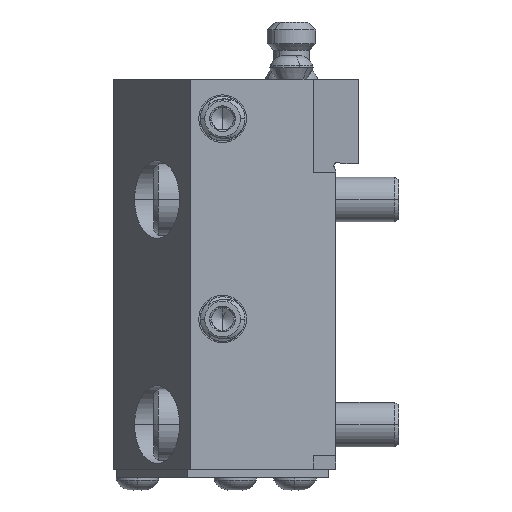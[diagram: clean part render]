
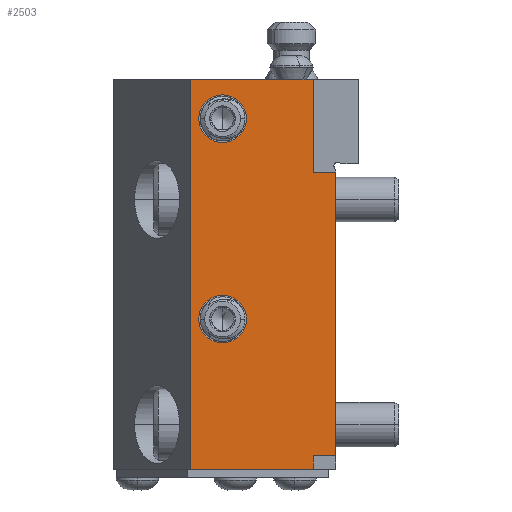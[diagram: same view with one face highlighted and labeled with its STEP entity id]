
A CAD part, left-side view. The second image highlights one B-rep face of the part: STEP entity #2503.
In plain terms, the highlighted planar face has unit normal (-1, 0, 0).
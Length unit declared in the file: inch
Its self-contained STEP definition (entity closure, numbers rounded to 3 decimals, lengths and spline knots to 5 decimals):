
#139 = DIRECTION ( 'NONE',  ( 0., 0., -1. ) ) ;
#149 = VERTEX_POINT ( 'NONE', #5284 ) ;
#290 = VERTEX_POINT ( 'NONE', #16333 ) ;
#643 = EDGE_LOOP ( 'NONE', ( #8943, #15682 ) ) ;
#668 = VERTEX_POINT ( 'NONE', #11712 ) ;
#836 = ORIENTED_EDGE ( 'NONE', *, *, #4191, .T. ) ;
#898 = CIRCLE ( 'NONE', #16187, 0.2105 ) ;
#1089 = AXIS2_PLACEMENT_3D ( 'NONE', #11428, #2860, #11608 ) ;
#1207 = VECTOR ( 'NONE', #10221, 39.37008 ) ;
#1418 = CARTESIAN_POINT ( 'NONE',  ( -1.77165, -0.8, 0.12 ) ) ;
#1550 = EDGE_CURVE ( 'NONE', #16077, #149, #9449, .T. ) ;
#2078 = DIRECTION ( 'NONE',  ( 0., 0., 1. ) ) ;
#2503 = ADVANCED_FACE ( 'NONE', ( #8050, #13849, #8145 ), #18065, .T. ) ;
#2860 = DIRECTION ( 'NONE',  ( 1., 0., 0. ) ) ;
#2947 = CARTESIAN_POINT ( 'NONE',  ( -1.77165, -0.8, 2.625 ) ) ;
#3023 = CARTESIAN_POINT ( 'NONE',  ( -1.77165, -0.8, 0.12 ) ) ;
#3170 = DIRECTION ( 'NONE',  ( 0., 1., 0. ) ) ;
#3234 = DIRECTION ( 'NONE',  ( 0., 0., -1. ) ) ;
#3238 = EDGE_CURVE ( 'NONE', #11465, #4535, #8610, .T. ) ;
#3314 = VECTOR ( 'NONE', #4524, 39.37008 ) ;
#3320 = ORIENTED_EDGE ( 'NONE', *, *, #17217, .T. ) ;
#3878 = VECTOR ( 'NONE', #3972, 39.37008 ) ;
#3896 = CARTESIAN_POINT ( 'NONE',  ( -1.77165, -1.2, 2.625 ) ) ;
#3929 = VERTEX_POINT ( 'NONE', #3023 ) ;
#3972 = DIRECTION ( 'NONE',  ( 0., -1., 0. ) ) ;
#4054 = DIRECTION ( 'NONE',  ( 1., 0., 0. ) ) ;
#4191 = EDGE_CURVE ( 'NONE', #668, #6331, #9240, .T. ) ;
#4502 = LINE ( 'NONE', #7426, #1207 ) ;
#4524 = DIRECTION ( 'NONE',  ( 0., 0., -1. ) ) ;
#4535 = VERTEX_POINT ( 'NONE', #6850 ) ;
#4662 = CARTESIAN_POINT ( 'NONE',  ( -1.77165, 0., 3.1 ) ) ;
#5006 = CIRCLE ( 'NONE', #1089, 0.2105 ) ;
#5184 = EDGE_CURVE ( 'NONE', #290, #10234, #11222, .T. ) ;
#5227 = CARTESIAN_POINT ( 'NONE',  ( -1.77165, -1.2, 3.45 ) ) ;
#5284 = CARTESIAN_POINT ( 'NONE',  ( -1.77165, 0., 2.8895 ) ) ;
#5524 = AXIS2_PLACEMENT_3D ( 'NONE', #16895, #4054, #11284 ) ;
#6027 = LINE ( 'NONE', #10436, #3314 ) ;
#6331 = VERTEX_POINT ( 'NONE', #16278 ) ;
#6517 = VECTOR ( 'NONE', #3170, 39.37008 ) ;
#6636 = DIRECTION ( 'NONE',  ( -1., 0., 0. ) ) ;
#6750 = AXIS2_PLACEMENT_3D ( 'NONE', #4662, #10385, #3234 ) ;
#6850 = CARTESIAN_POINT ( 'NONE',  ( -1.77165, -0.8, 3.45 ) ) ;
#7127 = CARTESIAN_POINT ( 'NONE',  ( -1.77165, -0.8, 0. ) ) ;
#7244 = CARTESIAN_POINT ( 'NONE',  ( -1.77165, 0., 3.1 ) ) ;
#7307 = EDGE_CURVE ( 'NONE', #11374, #15671, #13002, .T. ) ;
#7426 = CARTESIAN_POINT ( 'NONE',  ( -1.77165, -1.2, 0. ) ) ;
#7745 = CARTESIAN_POINT ( 'NONE',  ( -1.77165, 0., 1.53885 ) ) ;
#8050 = FACE_BOUND ( 'NONE', #643, .T. ) ;
#8139 = DIRECTION ( 'NONE',  ( 0., 1., 0. ) ) ;
#8145 = FACE_OUTER_BOUND ( 'NONE', #9771, .T. ) ;
#8274 = LINE ( 'NONE', #13969, #6517 ) ;
#8522 = ORIENTED_EDGE ( 'NONE', *, *, #3238, .T. ) ;
#8610 = LINE ( 'NONE', #2947, #17366 ) ;
#8633 = VERTEX_POINT ( 'NONE', #7127 ) ;
#8689 = ORIENTED_EDGE ( 'NONE', *, *, #16033, .F. ) ;
#8943 = ORIENTED_EDGE ( 'NONE', *, *, #16458, .T. ) ;
#9240 = LINE ( 'NONE', #14935, #14098 ) ;
#9449 = CIRCLE ( 'NONE', #6750, 0.2105 ) ;
#9480 = CARTESIAN_POINT ( 'NONE',  ( -1.77165, 0.28344, 0. ) ) ;
#9771 = EDGE_LOOP ( 'NONE', ( #8689, #13906, #13271, #836, #14733, #8522, #3320, #15043 ) ) ;
#10084 = EDGE_CURVE ( 'NONE', #6331, #11465, #17112, .T. ) ;
#10116 = DIRECTION ( 'NONE',  ( 0., 0., -1. ) ) ;
#10221 = DIRECTION ( 'NONE',  ( 0., 1., 0. ) ) ;
#10223 = CARTESIAN_POINT ( 'NONE',  ( -1.77165, 0.28344, 3.45 ) ) ;
#10234 = VERTEX_POINT ( 'NONE', #7745 ) ;
#10385 = DIRECTION ( 'NONE',  ( 1., 0., 0. ) ) ;
#10436 = CARTESIAN_POINT ( 'NONE',  ( -1.77165, -0.8, 0.12 ) ) ;
#10693 = CARTESIAN_POINT ( 'NONE',  ( -1.77165, 0., 3.3105 ) ) ;
#10914 = ORIENTED_EDGE ( 'NONE', *, *, #15953, .T. ) ;
#11222 = CIRCLE ( 'NONE', #5524, 0.2105 ) ;
#11284 = DIRECTION ( 'NONE',  ( 0., 0., -1. ) ) ;
#11374 = VERTEX_POINT ( 'NONE', #10223 ) ;
#11428 = CARTESIAN_POINT ( 'NONE',  ( -1.77165, 0., 1.32835 ) ) ;
#11465 = VERTEX_POINT ( 'NONE', #17817 ) ;
#11608 = DIRECTION ( 'NONE',  ( 0., 0., -1. ) ) ;
#11712 = CARTESIAN_POINT ( 'NONE',  ( -1.77165, -1., 0.12 ) ) ;
#12094 = EDGE_CURVE ( 'NONE', #3929, #668, #17097, .T. ) ;
#13002 = LINE ( 'NONE', #13095, #14690 ) ;
#13095 = CARTESIAN_POINT ( 'NONE',  ( -1.77165, 0.28344, 3.45 ) ) ;
#13271 = ORIENTED_EDGE ( 'NONE', *, *, #12094, .T. ) ;
#13754 = DIRECTION ( 'NONE',  ( 0., -1., 0. ) ) ;
#13849 = FACE_BOUND ( 'NONE', #16271, .T. ) ;
#13906 = ORIENTED_EDGE ( 'NONE', *, *, #15532, .F. ) ;
#13969 = CARTESIAN_POINT ( 'NONE',  ( -1.77165, -1.2, 3.45 ) ) ;
#14098 = VECTOR ( 'NONE', #2078, 39.37008 ) ;
#14690 = VECTOR ( 'NONE', #139, 39.37008 ) ;
#14733 = ORIENTED_EDGE ( 'NONE', *, *, #10084, .T. ) ;
#14935 = CARTESIAN_POINT ( 'NONE',  ( -1.77165, -1., 0. ) ) ;
#14945 = AXIS2_PLACEMENT_3D ( 'NONE', #5227, #6636, #13754 ) ;
#15043 = ORIENTED_EDGE ( 'NONE', *, *, #7307, .T. ) ;
#15532 = EDGE_CURVE ( 'NONE', #3929, #8633, #6027, .T. ) ;
#15533 = VECTOR ( 'NONE', #8139, 39.37008 ) ;
#15671 = VERTEX_POINT ( 'NONE', #9480 ) ;
#15682 = ORIENTED_EDGE ( 'NONE', *, *, #5184, .T. ) ;
#15953 = EDGE_CURVE ( 'NONE', #149, #16077, #898, .T. ) ;
#16033 = EDGE_CURVE ( 'NONE', #8633, #15671, #4502, .T. ) ;
#16077 = VERTEX_POINT ( 'NONE', #10693 ) ;
#16187 = AXIS2_PLACEMENT_3D ( 'NONE', #7244, #17438, #10116 ) ;
#16271 = EDGE_LOOP ( 'NONE', ( #16280, #10914 ) ) ;
#16278 = CARTESIAN_POINT ( 'NONE',  ( -1.77165, -1., 2.625 ) ) ;
#16280 = ORIENTED_EDGE ( 'NONE', *, *, #1550, .T. ) ;
#16333 = CARTESIAN_POINT ( 'NONE',  ( -1.77165, 0., 1.11785 ) ) ;
#16458 = EDGE_CURVE ( 'NONE', #10234, #290, #5006, .T. ) ;
#16895 = CARTESIAN_POINT ( 'NONE',  ( -1.77165, 0., 1.32835 ) ) ;
#17097 = LINE ( 'NONE', #1418, #3878 ) ;
#17112 = LINE ( 'NONE', #3896, #15533 ) ;
#17217 = EDGE_CURVE ( 'NONE', #4535, #11374, #8274, .T. ) ;
#17366 = VECTOR ( 'NONE', #18349, 39.37008 ) ;
#17438 = DIRECTION ( 'NONE',  ( 1., 0., 0. ) ) ;
#17817 = CARTESIAN_POINT ( 'NONE',  ( -1.77165, -0.8, 2.625 ) ) ;
#18065 = PLANE ( 'NONE',  #14945 ) ;
#18349 = DIRECTION ( 'NONE',  ( 0., 0., 1. ) ) ;
